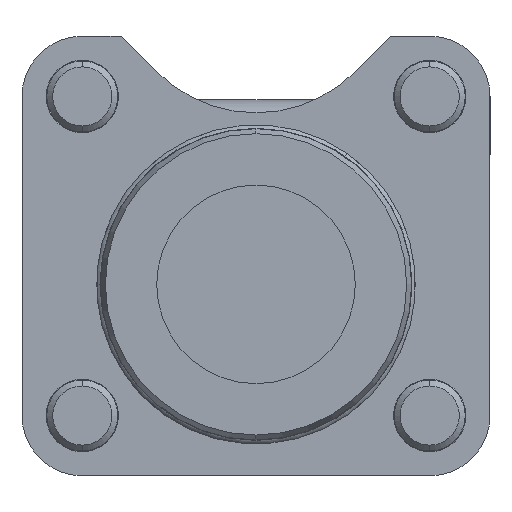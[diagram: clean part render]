
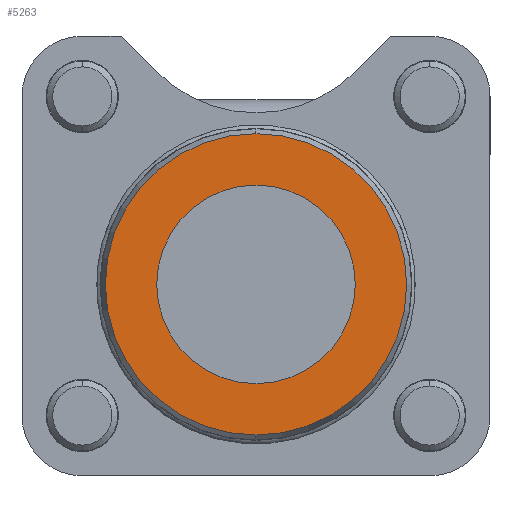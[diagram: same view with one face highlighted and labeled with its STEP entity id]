
A CAD part, front view. The second image highlights one B-rep face of the part: STEP entity #5263.
In plain terms, the highlighted planar face has unit normal (0, -1, 0).
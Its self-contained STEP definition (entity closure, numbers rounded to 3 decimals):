
#497 = CARTESIAN_POINT ( 'NONE',  ( 0., 0., -62. ) ) ;
#504 = DIRECTION ( 'NONE',  ( 0., -1., 0. ) ) ;
#531 = DIRECTION ( 'NONE',  ( 0., 0., -1. ) ) ;
#540 = PLANE ( 'NONE',  #1376 ) ;
#727 = AXIS2_PLACEMENT_3D ( 'NONE', #5979, #5944, #5758 ) ;
#777 = EDGE_CURVE ( 'NONE', #4073, #3985, #4148, .T. ) ;
#1102 = EDGE_CURVE ( 'NONE', #4084, #4020, #6762, .T. ) ;
#1229 = AXIS2_PLACEMENT_3D ( 'NONE', #2567, #2416, #2414 ) ;
#1244 = AXIS2_PLACEMENT_3D ( 'NONE', #2438, #2423, #2668 ) ;
#1283 = EDGE_CURVE ( 'NONE', #4020, #4084, #7834, .T. ) ;
#1376 = AXIS2_PLACEMENT_3D ( 'NONE', #497, #504, #531 ) ;
#1450 = EDGE_CURVE ( 'NONE', #3985, #4073, #7513, .T. ) ;
#1506 = AXIS2_PLACEMENT_3D ( 'NONE', #6801, #6819, #7193 ) ;
#1674 = CARTESIAN_POINT ( 'NONE',  ( 33., 0., -49. ) ) ;
#1792 = CARTESIAN_POINT ( 'NONE',  ( 33., 0., -56.251 ) ) ;
#2414 = DIRECTION ( 'NONE',  ( 0., 0., -1. ) ) ;
#2416 = DIRECTION ( 'NONE',  ( 0., -1., 0. ) ) ;
#2423 = DIRECTION ( 'NONE',  ( 0., -1., 0. ) ) ;
#2438 = CARTESIAN_POINT ( 'NONE',  ( 33., 0., -35. ) ) ;
#2567 = CARTESIAN_POINT ( 'NONE',  ( 33., 0., -35. ) ) ;
#2668 = DIRECTION ( 'NONE',  ( 0., 0., -1. ) ) ;
#2844 = CARTESIAN_POINT ( 'NONE',  ( 33., 0., -21. ) ) ;
#2861 = CARTESIAN_POINT ( 'NONE',  ( 33., 0., -13.749 ) ) ;
#3985 = VERTEX_POINT ( 'NONE', #1792 ) ;
#4020 = VERTEX_POINT ( 'NONE', #1674 ) ;
#4073 = VERTEX_POINT ( 'NONE', #2861 ) ;
#4084 = VERTEX_POINT ( 'NONE', #2844 ) ;
#4148 = CIRCLE ( 'NONE', #1506, 21.251 ) ;
#4330 = ORIENTED_EDGE ( 'NONE', *, *, #1283, .F. ) ;
#4444 = EDGE_LOOP ( 'NONE', ( #4544, #4685 ) ) ;
#4456 = EDGE_LOOP ( 'NONE', ( #4330, #4585 ) ) ;
#4544 = ORIENTED_EDGE ( 'NONE', *, *, #777, .T. ) ;
#4585 = ORIENTED_EDGE ( 'NONE', *, *, #1102, .F. ) ;
#4685 = ORIENTED_EDGE ( 'NONE', *, *, #1450, .T. ) ;
#5263 = ADVANCED_FACE ( 'NONE', ( #7807, #7842 ), #540, .T. ) ;
#5758 = DIRECTION ( 'NONE',  ( 0., 0., -1. ) ) ;
#5944 = DIRECTION ( 'NONE',  ( 0., -1., 0. ) ) ;
#5979 = CARTESIAN_POINT ( 'NONE',  ( 33., 0., -35. ) ) ;
#6762 = CIRCLE ( 'NONE', #1244, 14. ) ;
#6801 = CARTESIAN_POINT ( 'NONE',  ( 33., 0., -35. ) ) ;
#6819 = DIRECTION ( 'NONE',  ( 0., -1., 0. ) ) ;
#7193 = DIRECTION ( 'NONE',  ( 0., 0., -1. ) ) ;
#7513 = CIRCLE ( 'NONE', #727, 21.251 ) ;
#7807 = FACE_OUTER_BOUND ( 'NONE', #4444, .T. ) ;
#7834 = CIRCLE ( 'NONE', #1229, 14. ) ;
#7842 = FACE_BOUND ( 'NONE', #4456, .T. ) ;
